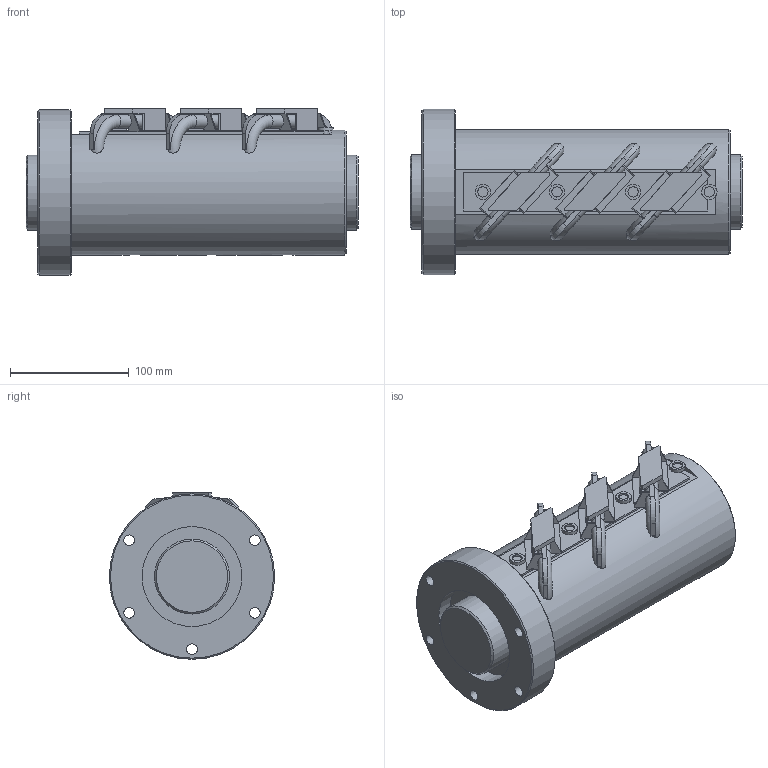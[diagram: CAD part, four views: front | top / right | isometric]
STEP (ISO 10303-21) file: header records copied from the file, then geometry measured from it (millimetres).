
FILE_DESCRIPTION(/* description */ ('STEP AP203'),/* implementation_level */ '2;1');
FILE_NAME(/* name */ 'HBN6316-10.5RRG2+279LC0(0G200)_rev',/* time_stamp */ '2024-07-04T08:18:02+02:00',/* author */ ('License CC BY-ND 4.0'),/* organization */ ('CADENAS'),/* preprocessor_version */ 'ST-DEVELOPER v19.3',/* originating_system */ 'PARTsolutions',/* authorisation */ ' ');
FILE_SCHEMA (('CONFIG_CONTROL_DESIGN'));
Length unit declared in the file: millimetre
Products named in the file (3): HBN6316-10.5RRG2+279LC0(0G200)_rev; HBN6316-10.5 RRG1+279L C0(01000) Shaft; HBN6316-10.5 RRG1+269L C0(0100) Nut
Assembly tree (2 placements, depth 2):
  HBN6316-10.5RRG2+279LC0(0G200)_rev
    HBN6316-10.5 RRG1+279L C0(01000) Shaft
    HBN6316-10.5 RRG1+269L C0(0100) Nut
Bounding box: 279 x 139 x 140 mm (x, y, z)
Volume: 2464387.8 mm3; surface area: 260900.5 mm2
Topology: 2 solids, 2 shells, 244 faces, 704 edges, 447 vertices
Faces by surface type: plane 192, cylinder 35, cone 11, torus 6
Full cylindrical faces by diameter (mm): 4.333 x4, 8.566 x3, 8.667 x4, 9 x5, 13 x4, 63 x2, 84 x2, 105 x1, 139 x1
Entity records: 8005 total; most frequent: CARTESIAN_POINT 1611, ORIENTED_EDGE 1310, DIRECTION 1241, EDGE_CURVE 655, LINE 507, VECTOR 507, VERTEX_POINT 438, AXIS2_PLACEMENT_3D 367
